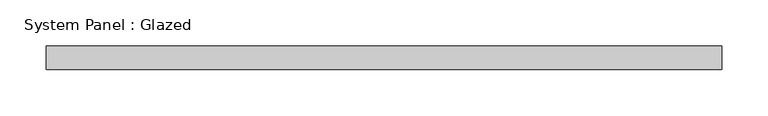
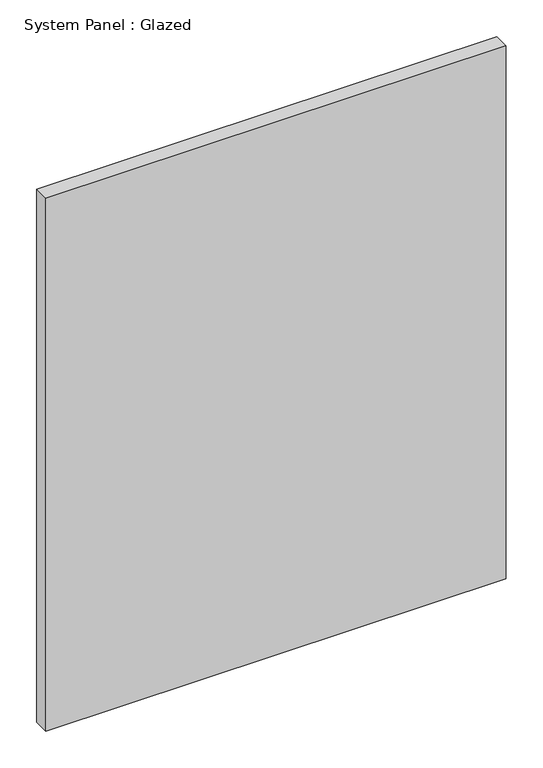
"""IFC4 building model written with IfcOpenShell, lengths in millimetres: plate geometry, System Panel : Glazed."""

from ifc_helpers import new_model, si_unit, origin, origin_with_axes, place, context, project, spatial, polyline, outline, extrude, source, transform, mapped, element, save


def system_panel_glazed_87d8510c(model_context):
    return source(origin(), model_context, "Body", "SweptSolid", [
        extrude(outline(polyline([(363.0446741, 24.5), (-363.0446741, 24.5), (-363.0446741, 49.5), (363.0446741, 49.5), (363.0446741, 24.5)])), origin_with_axes(), (0.0, 0.0, 1.0), 888.2560116),
    ])


if __name__ == "__main__":
    model = new_model("IFC4")
    model_context = context("Model", 3, world=origin())
    ifc_project = project(units=[si_unit("LENGTHUNIT", "METRE", prefix="MILLI")], contexts=[model_context])
    site = spatial("IfcSite", under=ifc_project)
    building = spatial("IfcBuilding", under=site)
    placement = place(None, origin())
    system_panel_glazed_shape = system_panel_glazed_87d8510c(model_context)
    element("IfcPlate", 1, ObjectType="System Panel : Glazed", at=placement, inside=building, context=model_context, shape_type="MappedRepresentation", body=[
        mapped(system_panel_glazed_shape, transform((0.0, 0.0, 0.0), x_axis=(1.0, 0.0, 0.0), y_axis=(0.0, 1.0, 0.0), z_axis=(0.0, 0.0, 1.0))),
    ])
    save(model, "model.ifc")
